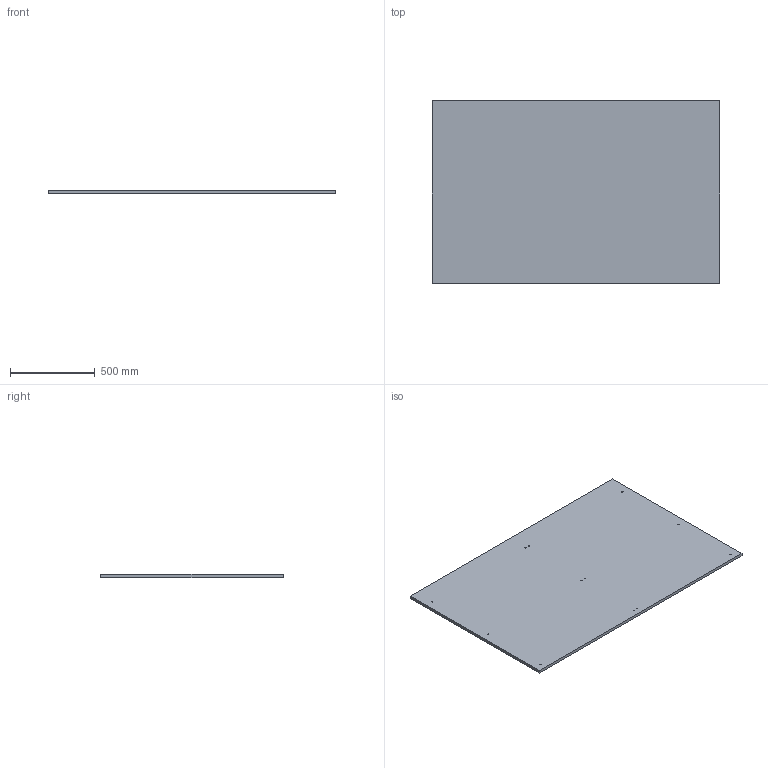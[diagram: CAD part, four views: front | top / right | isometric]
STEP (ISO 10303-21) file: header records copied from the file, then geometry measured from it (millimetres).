
FILE_DESCRIPTION (( 'STEP AP214' ), '1' );
FILE_NAME ('PANTS0046.STEP', '2025-05-15T12:56:29', ( '' ), ( '' ), 'SwSTEP 2.0', 'SolidWorks 2022', '' );
FILE_SCHEMA (( 'AUTOMOTIVE_DESIGN' ));
Length unit declared in the file: millimetre
Products named in the file (1): PANTS0046
Bounding box: 1696 x 1078 x 18 mm (x, y, z)
Volume: 32898921.6 mm3; surface area: 3760825.9 mm2
Topology: 1 solids, 1 shells, 94 faces, 220 edges, 112 vertices
Faces by surface type: cone 56, cylinder 32, plane 6
Entity records: 2454 total; most frequent: DIRECTION 466, CARTESIAN_POINT 395, ORIENTED_EDGE 376, EDGE_CURVE 188, AXIS2_PLACEMENT_3D 183, VERTEX_POINT 112, EDGE_LOOP 110, LINE 100
